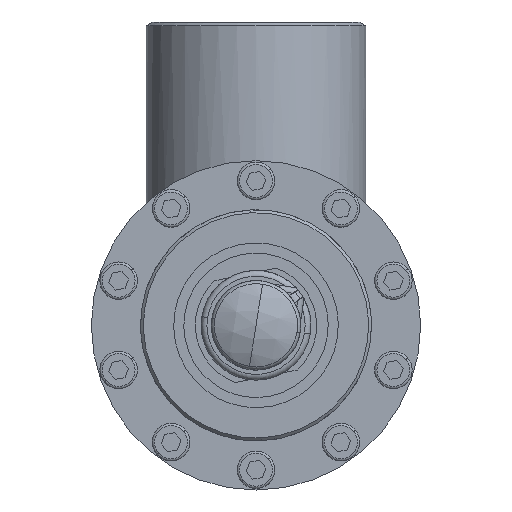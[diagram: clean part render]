
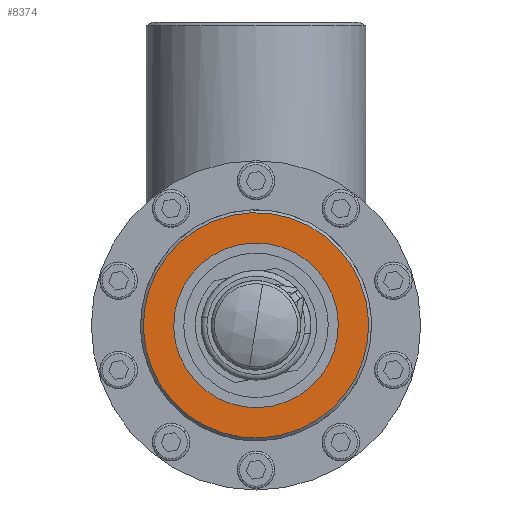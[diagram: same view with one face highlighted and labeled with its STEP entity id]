
A CAD part, front view. The second image highlights one B-rep face of the part: STEP entity #8374.
In plain terms, the highlighted planar face has unit normal (0, -1, 0) as drawn and (0, 1, 0) by its records, which use the part's own axes.
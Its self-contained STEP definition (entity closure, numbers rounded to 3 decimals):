
#974 = ORIENTED_EDGE ( 'NONE', *, *, #20067, .F. ) ;
#17365 = VERTEX_POINT ( 'NONE', #23836 ) ;
#17446 = EDGE_CURVE ( 'NONE', #7383, #4879, #24030, .T. ) ;
#17609 = EDGE_CURVE ( 'NONE', #22153, #17365, #24134, .T. ) ;
#19044 = ORIENTED_EDGE ( 'NONE', *, *, #17446, .F. ) ;
#3391 = CIRCLE ( 'NONE', #3392, 39. ) ;
#3392 = AXIS2_PLACEMENT_3D ( 'NONE', #3393, #3394, #3395 ) ;
#3393 = CARTESIAN_POINT ( 'NONE',  ( 0., 145., 0. ) ) ;
#3394 = DIRECTION ( 'NONE',  ( 0., -1., 0. ) ) ;
#3395 = DIRECTION ( 'NONE',  ( 0., 0., -1. ) ) ;
#20067 = EDGE_CURVE ( 'NONE', #4879, #7383, #3391, .T. ) ;
#4879 = VERTEX_POINT ( 'NONE', #7281 ) ;
#22153 = VERTEX_POINT ( 'NONE', #14319 ) ;
#22660 = CIRCLE ( 'NONE', #22661, 25.25 ) ;
#22661 = AXIS2_PLACEMENT_3D ( 'NONE', #22662, #22663, #22664 ) ;
#22662 = CARTESIAN_POINT ( 'NONE',  ( 0., 145., 0. ) ) ;
#22663 = DIRECTION ( 'NONE',  ( 0., 1., 0. ) ) ;
#22664 = DIRECTION ( 'NONE',  ( 0., 0., 1. ) ) ;
#7281 = CARTESIAN_POINT ( 'NONE',  ( 0., 145., -39. ) ) ;
#7383 = VERTEX_POINT ( 'NONE', #10826 ) ;
#23836 = CARTESIAN_POINT ( 'NONE',  ( 0., 145., 25.25 ) ) ;
#24030 = CIRCLE ( 'NONE', #24031, 39. ) ;
#24031 = AXIS2_PLACEMENT_3D ( 'NONE', #24032, #24033, #24034 ) ;
#24032 = CARTESIAN_POINT ( 'NONE',  ( 0., 145., 0. ) ) ;
#24033 = DIRECTION ( 'NONE',  ( 0., -1., 0. ) ) ;
#24034 = DIRECTION ( 'NONE',  ( 0., 0., -1. ) ) ;
#24134 = CIRCLE ( 'NONE', #24135, 25.25 ) ;
#24135 = AXIS2_PLACEMENT_3D ( 'NONE', #24136, #24137, #24138 ) ;
#24136 = CARTESIAN_POINT ( 'NONE',  ( 0., 145., 0. ) ) ;
#24137 = DIRECTION ( 'NONE',  ( 0., 1., 0. ) ) ;
#24138 = DIRECTION ( 'NONE',  ( 0., 0., 1. ) ) ;
#8374 = ADVANCED_FACE ( 'NONE', ( #11321, #11322 ), #11323, .T. ) ;
#10826 = CARTESIAN_POINT ( 'NONE',  ( 0., 145., 39. ) ) ;
#11321 = FACE_BOUND ( 'NONE', #13641, .T. ) ;
#11322 = FACE_OUTER_BOUND ( 'NONE', #15721, .T. ) ;
#11323 = PLANE ( 'NONE',  #11324 ) ;
#11324 = AXIS2_PLACEMENT_3D ( 'NONE', #11325, #11326, #11327 ) ;
#11325 = CARTESIAN_POINT ( 'NONE',  ( 0., 145., 0. ) ) ;
#11326 = DIRECTION ( 'NONE',  ( 0., 1., 0. ) ) ;
#11327 = DIRECTION ( 'NONE',  ( 0., 0., 1. ) ) ;
#13237 = ORIENTED_EDGE ( 'NONE', *, *, #17609, .F. ) ;
#13641 = EDGE_LOOP ( 'NONE', ( #15167, #13237 ) ) ;
#14319 = CARTESIAN_POINT ( 'NONE',  ( 0., 145., -25.25 ) ) ;
#15167 = ORIENTED_EDGE ( 'NONE', *, *, #15865, .F. ) ;
#15721 = EDGE_LOOP ( 'NONE', ( #974, #19044 ) ) ;
#15865 = EDGE_CURVE ( 'NONE', #17365, #22153, #22660, .T. ) ;
